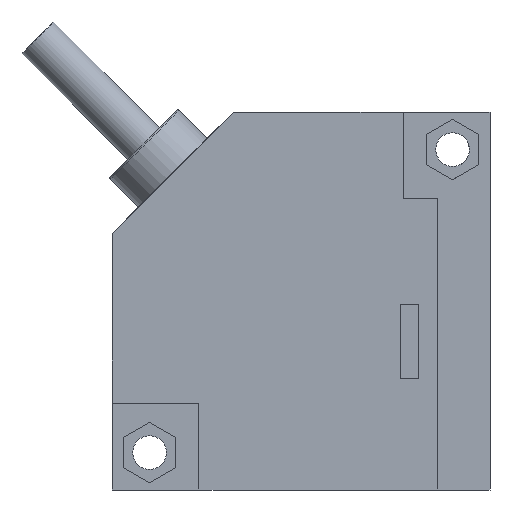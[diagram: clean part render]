
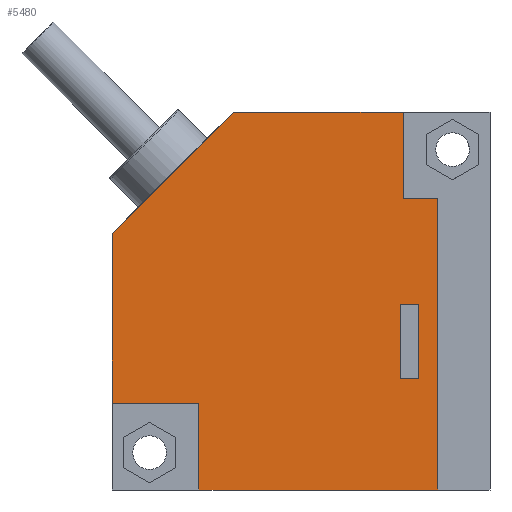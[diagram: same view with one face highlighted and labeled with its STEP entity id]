
A CAD part, front view. The second image highlights one B-rep face of the part: STEP entity #5480.
In plain terms, the highlighted planar face has unit normal (0, -1, 0) as drawn and (0, 1, 0) by its records, which use the part's own axes.
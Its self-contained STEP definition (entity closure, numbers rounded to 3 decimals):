
#5237=DIRECTION('',(0.707,0.,-0.707));
#5238=VECTOR('',#5237,22.91);
#5239=CARTESIAN_POINT('',(-25.25,9.05,-9.05));
#5240=LINE('',#5239,#5238);
#5241=DIRECTION('',(0.,0.,-1.));
#5242=VECTOR('',#5241,10.);
#5243=CARTESIAN_POINT('',(15.75,9.05,10.4));
#5244=LINE('',#5243,#5242);
#5245=DIRECTION('',(-1.,0.,0.));
#5246=VECTOR('',#5245,2.5);
#5247=CARTESIAN_POINT('',(15.75,9.05,0.4));
#5248=LINE('',#5247,#5246);
#5249=DIRECTION('',(0.,0.,1.));
#5250=VECTOR('',#5249,10.);
#5251=CARTESIAN_POINT('',(13.25,9.05,0.4));
#5252=LINE('',#5251,#5250);
#5253=DIRECTION('',(1.,0.,0.));
#5254=VECTOR('',#5253,2.5);
#5255=CARTESIAN_POINT('',(13.25,9.05,10.4));
#5256=LINE('',#5255,#5254);
#5257=DIRECTION('',(1.,0.,0.));
#5258=VECTOR('',#5257,11.6);
#5259=CARTESIAN_POINT('',(-25.25,9.05,13.65));
#5260=LINE('',#5259,#5258);
#5265=DIRECTION('',(0.,0.,1.));
#5266=VECTOR('',#5265,11.6);
#5267=CARTESIAN_POINT('',(-13.65,9.05,13.65));
#5268=LINE('',#5267,#5266);
#5273=DIRECTION('',(1.,0.,0.));
#5274=VECTOR('',#5273,31.9);
#5275=CARTESIAN_POINT('',(-13.65,9.05,25.25));
#5276=LINE('',#5275,#5274);
#5281=DIRECTION('',(0.,0.,-1.));
#5282=VECTOR('',#5281,38.9);
#5283=CARTESIAN_POINT('',(18.25,9.05,25.25));
#5284=LINE('',#5283,#5282);
#5289=DIRECTION('',(-1.,0.,0.));
#5290=VECTOR('',#5289,4.6);
#5291=CARTESIAN_POINT('',(18.25,9.05,-13.65));
#5292=LINE('',#5291,#5290);
#5297=DIRECTION('',(0.,0.,-1.));
#5298=VECTOR('',#5297,11.6);
#5299=CARTESIAN_POINT('',(13.65,9.05,-13.65));
#5300=LINE('',#5299,#5298);
#5305=DIRECTION('',(-1.,0.,0.));
#5306=VECTOR('',#5305,22.7);
#5307=CARTESIAN_POINT('',(13.65,9.05,-25.25));
#5308=LINE('',#5307,#5306);
#5317=DIRECTION('',(0.,0.,1.));
#5318=VECTOR('',#5317,22.7);
#5319=CARTESIAN_POINT('',(-25.25,9.05,-9.05));
#5320=LINE('',#5319,#5318);
#5393=CARTESIAN_POINT('',(-25.25,9.05,13.65));
#5394=CARTESIAN_POINT('',(-13.65,9.05,13.65));
#5395=VERTEX_POINT('',#5393);
#5396=VERTEX_POINT('',#5394);
#5397=CARTESIAN_POINT('',(-25.25,9.05,-9.05));
#5398=VERTEX_POINT('',#5397);
#5399=CARTESIAN_POINT('',(-9.05,9.05,-25.25));
#5400=VERTEX_POINT('',#5399);
#5401=CARTESIAN_POINT('',(13.65,9.05,-25.25));
#5402=VERTEX_POINT('',#5401);
#5403=CARTESIAN_POINT('',(13.65,9.05,-13.65));
#5404=VERTEX_POINT('',#5403);
#5405=CARTESIAN_POINT('',(18.25,9.05,-13.65));
#5406=VERTEX_POINT('',#5405);
#5407=CARTESIAN_POINT('',(18.25,9.05,25.25));
#5408=VERTEX_POINT('',#5407);
#5409=CARTESIAN_POINT('',(-13.65,9.05,25.25));
#5410=VERTEX_POINT('',#5409);
#5411=CARTESIAN_POINT('',(15.75,9.05,10.4));
#5412=CARTESIAN_POINT('',(15.75,9.05,0.4));
#5413=VERTEX_POINT('',#5411);
#5414=VERTEX_POINT('',#5412);
#5415=CARTESIAN_POINT('',(13.25,9.05,0.4));
#5416=VERTEX_POINT('',#5415);
#5417=CARTESIAN_POINT('',(13.25,9.05,10.4));
#5418=VERTEX_POINT('',#5417);
#5445=CARTESIAN_POINT('',(0.,9.05,0.));
#5446=DIRECTION('',(0.,-1.,0.));
#5447=DIRECTION('',(1.,0.,0.));
#5448=AXIS2_PLACEMENT_3D('',#5445,#5446,#5447);
#5449=PLANE('',#5448);
#5451=ORIENTED_EDGE('',*,*,#5450,.F.);
#5453=ORIENTED_EDGE('',*,*,#5452,.F.);
#5455=ORIENTED_EDGE('',*,*,#5454,.T.);
#5457=ORIENTED_EDGE('',*,*,#5456,.F.);
#5459=ORIENTED_EDGE('',*,*,#5458,.F.);
#5461=ORIENTED_EDGE('',*,*,#5460,.F.);
#5463=ORIENTED_EDGE('',*,*,#5462,.F.);
#5465=ORIENTED_EDGE('',*,*,#5464,.F.);
#5467=ORIENTED_EDGE('',*,*,#5466,.F.);
#5468=EDGE_LOOP('',(#5451,#5453,#5455,#5457,#5459,#5461,#5463,#5465,#5467));
#5469=FACE_OUTER_BOUND('',#5468,.F.);
#5471=ORIENTED_EDGE('',*,*,#5470,.T.);
#5473=ORIENTED_EDGE('',*,*,#5472,.T.);
#5475=ORIENTED_EDGE('',*,*,#5474,.T.);
#5477=ORIENTED_EDGE('',*,*,#5476,.T.);
#5478=EDGE_LOOP('',(#5471,#5473,#5475,#5477));
#5479=FACE_BOUND('',#5478,.F.);
#5480=ADVANCED_FACE('',(#5469,#5479),#5449,.F.);
#5450=EDGE_CURVE('',#5395,#5396,#5260,.T.);
#5452=EDGE_CURVE('',#5398,#5395,#5320,.T.);
#5454=EDGE_CURVE('',#5398,#5400,#5240,.T.);
#5456=EDGE_CURVE('',#5402,#5400,#5308,.T.);
#5458=EDGE_CURVE('',#5404,#5402,#5300,.T.);
#5460=EDGE_CURVE('',#5406,#5404,#5292,.T.);
#5462=EDGE_CURVE('',#5408,#5406,#5284,.T.);
#5464=EDGE_CURVE('',#5410,#5408,#5276,.T.);
#5466=EDGE_CURVE('',#5396,#5410,#5268,.T.);
#5470=EDGE_CURVE('',#5413,#5414,#5244,.T.);
#5472=EDGE_CURVE('',#5414,#5416,#5248,.T.);
#5474=EDGE_CURVE('',#5416,#5418,#5252,.T.);
#5476=EDGE_CURVE('',#5418,#5413,#5256,.T.);
